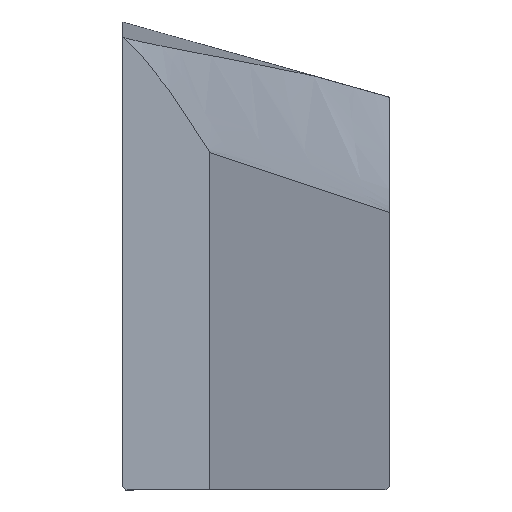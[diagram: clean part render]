
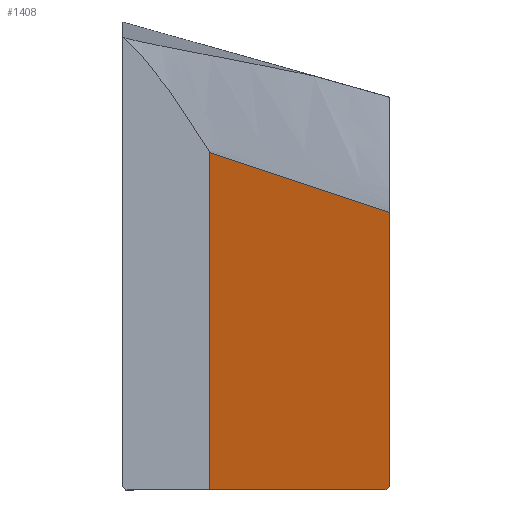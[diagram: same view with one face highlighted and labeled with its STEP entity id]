
A CAD part, front view. The second image highlights one B-rep face of the part: STEP entity #1408.
In plain terms, the highlighted planar face has unit normal (0.909, -0.417, 0).
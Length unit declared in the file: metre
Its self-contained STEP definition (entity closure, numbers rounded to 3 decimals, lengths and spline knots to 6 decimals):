
#503=ORIENTED_EDGE('',*,*,#753,.F.);
#504=ORIENTED_EDGE('',*,*,#754,.T.);
#505=ORIENTED_EDGE('',*,*,#738,.T.);
#506=ORIENTED_EDGE('',*,*,#718,.T.);
#507=ORIENTED_EDGE('',*,*,#665,.F.);
#665=EDGE_CURVE('',#847,#846,#949,.T.);
#718=EDGE_CURVE('',#883,#846,#975,.T.);
#738=EDGE_CURVE('',#895,#883,#994,.T.);
#753=EDGE_CURVE('',#902,#847,#1006,.T.);
#754=EDGE_CURVE('',#902,#895,#1007,.T.);
#846=VERTEX_POINT('',#3664);
#847=VERTEX_POINT('',#3736);
#883=VERTEX_POINT('',#4120);
#895=VERTEX_POINT('',#4157);
#902=VERTEX_POINT('',#4186);
#949=LINE('',#3737,#1061);
#975=LINE('',#4119,#1087);
#994=LINE('',#4156,#1106);
#1006=LINE('',#4185,#1118);
#1007=LINE('',#4187,#1119);
#1061=VECTOR('',#1738,1.);
#1087=VECTOR('',#1832,1.);
#1106=VECTOR('',#1863,1.);
#1118=VECTOR('',#1895,1.);
#1119=VECTOR('',#1896,1.);
#1205=EDGE_LOOP('',(#503,#504,#505,#506,#507));
#1294=FACE_BOUND('',#1205,.T.);
#1336=PLANE('',#1547);
#1408=ADVANCED_FACE('',(#1294),#1336,.F.);
#1547=AXIS2_PLACEMENT_3D('',#4184,#1893,#1894);
#1738=DIRECTION('',(0.413,0.9,-0.137));
#1832=DIRECTION('',(0.,0.,1.));
#1863=DIRECTION('',(0.385,0.839,0.385));
#1893=DIRECTION('',(-0.909,0.417,0.));
#1894=DIRECTION('',(0.417,0.909,0.));
#1895=DIRECTION('',(0.,0.,1.));
#1896=DIRECTION('',(0.417,0.909,0.));
#3664=CARTESIAN_POINT('',(0.135,0.2895,0.039));
#3736=CARTESIAN_POINT('',(0.11,0.235,0.047313));
#3737=CARTESIAN_POINT('',(0.11,0.235,0.047313));
#4119=CARTESIAN_POINT('',(0.135,0.2895,-0.039));
#4120=CARTESIAN_POINT('',(0.135,0.2895,0.000889));
#4156=CARTESIAN_POINT('',(-0.045683,-0.104388,-0.179794));
#4157=CARTESIAN_POINT('',(0.134556,0.288531,0.000444));
#4184=CARTESIAN_POINT('',(0.1225,0.26225,-1.147248));
#4185=CARTESIAN_POINT('',(0.11,0.235,-0.048202));
#4186=CARTESIAN_POINT('',(0.11,0.235,0.000445));
#4187=CARTESIAN_POINT('',(0.1225,0.26225,0.000444));
